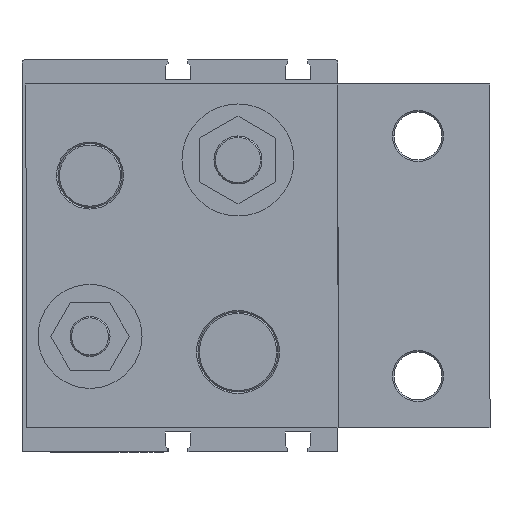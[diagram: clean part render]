
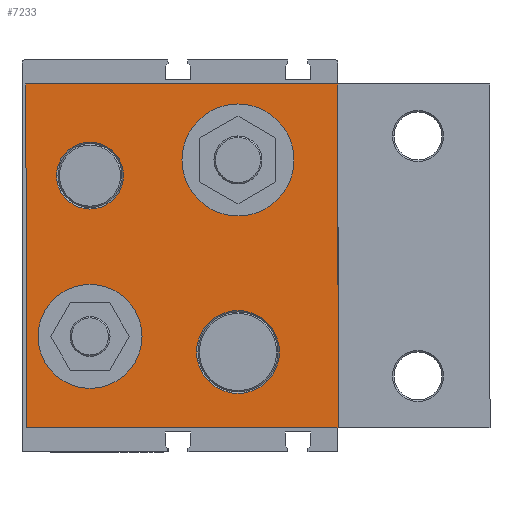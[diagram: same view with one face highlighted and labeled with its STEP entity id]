
A CAD part, left-side view. The second image highlights one B-rep face of the part: STEP entity #7233.
In plain terms, the highlighted planar face has unit normal (-1, 0, 0) as drawn and (1, 0, 0) by its records, which use the part's own axes.
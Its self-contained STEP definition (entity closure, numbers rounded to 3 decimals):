
#99 = DIRECTION ( 'NONE',  ( 1., 0., 0. ) ) ;
#170 = CIRCLE ( 'NONE', #7230, 14. ) ;
#231 = VERTEX_POINT ( 'NONE', #5303 ) ;
#281 = DIRECTION ( 'NONE',  ( 0., 0., 1. ) ) ;
#397 = EDGE_CURVE ( 'NONE', #926, #5437, #2987, .T. ) ;
#421 = DIRECTION ( 'NONE',  ( 1., 0., 0. ) ) ;
#538 = CARTESIAN_POINT ( 'NONE',  ( 28., -3., 20.1 ) ) ;
#581 = EDGE_CURVE ( 'NONE', #231, #2690, #5788, .T. ) ;
#752 = ORIENTED_EDGE ( 'NONE', *, *, #6431, .F. ) ;
#783 = ORIENTED_EDGE ( 'NONE', *, *, #1413, .F. ) ;
#926 = VERTEX_POINT ( 'NONE', #2493 ) ;
#956 = CARTESIAN_POINT ( 'NONE',  ( 28., -78., 43. ) ) ;
#1082 = CARTESIAN_POINT ( 'NONE',  ( 28., 0., -43. ) ) ;
#1277 = AXIS2_PLACEMENT_3D ( 'NONE', #1853, #5865, #2411 ) ;
#1334 = CIRCLE ( 'NONE', #3424, 14. ) ;
#1413 = EDGE_CURVE ( 'NONE', #2025, #3735, #5475, .T. ) ;
#1513 = LINE ( 'NONE', #956, #7475 ) ;
#1618 = CARTESIAN_POINT ( 'NONE',  ( 28., -63.375, 24. ) ) ;
#1639 = EDGE_LOOP ( 'NONE', ( #1858, #6681, #2314, #6913 ) ) ;
#1736 = CARTESIAN_POINT ( 'NONE',  ( 28., -39., -24. ) ) ;
#1785 = CIRCLE ( 'NONE', #1277, 13. ) ;
#1790 = DIRECTION ( 'NONE',  ( 1., 0., 0. ) ) ;
#1808 = FACE_BOUND ( 'NONE', #3704, .T. ) ;
#1853 = CARTESIAN_POINT ( 'NONE',  ( 28., -16., 20.1 ) ) ;
#1858 = ORIENTED_EDGE ( 'NONE', *, *, #5082, .T. ) ;
#1979 = PLANE ( 'NONE',  #3680 ) ;
#2025 = VERTEX_POINT ( 'NONE', #4497 ) ;
#2027 = CARTESIAN_POINT ( 'NONE',  ( 28., 0., 43. ) ) ;
#2067 = DIRECTION ( 'NONE',  ( 0., 0., 1. ) ) ;
#2103 = VERTEX_POINT ( 'NONE', #5161 ) ;
#2314 = ORIENTED_EDGE ( 'NONE', *, *, #4644, .T. ) ;
#2324 = DIRECTION ( 'NONE',  ( 1., 0., 0. ) ) ;
#2385 = CIRCLE ( 'NONE', #3913, 8.375 ) ;
#2411 = DIRECTION ( 'NONE',  ( 0., 1., 0. ) ) ;
#2443 = EDGE_CURVE ( 'NONE', #6370, #5987, #5422, .T. ) ;
#2491 = VERTEX_POINT ( 'NONE', #538 ) ;
#2493 = CARTESIAN_POINT ( 'NONE',  ( 28., -42.625, 24. ) ) ;
#2690 = VERTEX_POINT ( 'NONE', #4189 ) ;
#2930 = EDGE_LOOP ( 'NONE', ( #7366, #783 ) ) ;
#2987 = CIRCLE ( 'NONE', #6533, 10.375 ) ;
#3139 = FACE_BOUND ( 'NONE', #2930, .T. ) ;
#3150 = AXIS2_PLACEMENT_3D ( 'NONE', #3504, #99, #4080 ) ;
#3222 = CARTESIAN_POINT ( 'NONE',  ( 28., -53., -24. ) ) ;
#3295 = DIRECTION ( 'NONE',  ( 1., 0., 0. ) ) ;
#3311 = ORIENTED_EDGE ( 'NONE', *, *, #7442, .F. ) ;
#3314 = FACE_OUTER_BOUND ( 'NONE', #1639, .T. ) ;
#3335 = AXIS2_PLACEMENT_3D ( 'NONE', #5771, #2324, #6350 ) ;
#3342 = DIRECTION ( 'NONE',  ( 1., 0., 0. ) ) ;
#3424 = AXIS2_PLACEMENT_3D ( 'NONE', #3837, #421, #4402 ) ;
#3504 = CARTESIAN_POINT ( 'NONE',  ( 28., -53., 24. ) ) ;
#3680 = AXIS2_PLACEMENT_3D ( 'NONE', #7174, #3696, #281 ) ;
#3696 = DIRECTION ( 'NONE',  ( -1., 0., 0. ) ) ;
#3704 = EDGE_LOOP ( 'NONE', ( #4348, #752 ) ) ;
#3735 = VERTEX_POINT ( 'NONE', #5523 ) ;
#3808 = DIRECTION ( 'NONE',  ( 0., 1., 0. ) ) ;
#3837 = CARTESIAN_POINT ( 'NONE',  ( 28., -53., -24. ) ) ;
#3871 = CARTESIAN_POINT ( 'NONE',  ( 28., -78., -43. ) ) ;
#3913 = AXIS2_PLACEMENT_3D ( 'NONE', #6764, #3295, #7365 ) ;
#3947 = CARTESIAN_POINT ( 'NONE',  ( 28., 0., -43. ) ) ;
#3952 = VERTEX_POINT ( 'NONE', #1736 ) ;
#4041 = VERTEX_POINT ( 'NONE', #5382 ) ;
#4062 = VECTOR ( 'NONE', #4491, 1000. ) ;
#4080 = DIRECTION ( 'NONE',  ( 0., 1., 0. ) ) ;
#4189 = CARTESIAN_POINT ( 'NONE',  ( 28., -78., 43. ) ) ;
#4313 = CARTESIAN_POINT ( 'NONE',  ( 28., 0., 43. ) ) ;
#4348 = ORIENTED_EDGE ( 'NONE', *, *, #4381, .F. ) ;
#4353 = EDGE_LOOP ( 'NONE', ( #7166, #5043 ) ) ;
#4381 = EDGE_CURVE ( 'NONE', #2491, #4041, #1785, .T. ) ;
#4402 = DIRECTION ( 'NONE',  ( 0., 1., 0. ) ) ;
#4491 = DIRECTION ( 'NONE',  ( 0., -1., 0. ) ) ;
#4497 = CARTESIAN_POINT ( 'NONE',  ( 28., -24.375, -20.1 ) ) ;
#4529 = LINE ( 'NONE', #4313, #5899 ) ;
#4644 = EDGE_CURVE ( 'NONE', #2690, #5987, #1513, .T. ) ;
#4661 = FACE_BOUND ( 'NONE', #5742, .T. ) ;
#4662 = EDGE_CURVE ( 'NONE', #3952, #2103, #1334, .T. ) ;
#5043 = ORIENTED_EDGE ( 'NONE', *, *, #5103, .F. ) ;
#5070 = CIRCLE ( 'NONE', #3335, 13. ) ;
#5082 = EDGE_CURVE ( 'NONE', #6370, #231, #4529, .T. ) ;
#5103 = EDGE_CURVE ( 'NONE', #2103, #3952, #170, .T. ) ;
#5161 = CARTESIAN_POINT ( 'NONE',  ( 28., -67., -24. ) ) ;
#5218 = CARTESIAN_POINT ( 'NONE',  ( 28., -53., 24. ) ) ;
#5303 = CARTESIAN_POINT ( 'NONE',  ( 28., 0., 43. ) ) ;
#5382 = CARTESIAN_POINT ( 'NONE',  ( 28., -29., 20.1 ) ) ;
#5422 = LINE ( 'NONE', #1082, #4062 ) ;
#5426 = VECTOR ( 'NONE', #6040, 1000. ) ;
#5429 = ORIENTED_EDGE ( 'NONE', *, *, #397, .F. ) ;
#5437 = VERTEX_POINT ( 'NONE', #1618 ) ;
#5475 = CIRCLE ( 'NONE', #5953, 8.375 ) ;
#5523 = CARTESIAN_POINT ( 'NONE',  ( 28., -7.625, -20.1 ) ) ;
#5742 = EDGE_LOOP ( 'NONE', ( #5429, #3311 ) ) ;
#5771 = CARTESIAN_POINT ( 'NONE',  ( 28., -16., 20.1 ) ) ;
#5788 = LINE ( 'NONE', #2027, #5426 ) ;
#5801 = DIRECTION ( 'NONE',  ( 0., 1., 0. ) ) ;
#5865 = DIRECTION ( 'NONE',  ( 1., 0., 0. ) ) ;
#5899 = VECTOR ( 'NONE', #2067, 1000. ) ;
#5953 = AXIS2_PLACEMENT_3D ( 'NONE', #6814, #3342, #7409 ) ;
#5964 = EDGE_CURVE ( 'NONE', #3735, #2025, #2385, .T. ) ;
#5987 = VERTEX_POINT ( 'NONE', #3871 ) ;
#6040 = DIRECTION ( 'NONE',  ( 0., -1., 0. ) ) ;
#6111 = DIRECTION ( 'NONE',  ( 0., 0., -1. ) ) ;
#6208 = FACE_BOUND ( 'NONE', #4353, .T. ) ;
#6350 = DIRECTION ( 'NONE',  ( 0., 1., 0. ) ) ;
#6370 = VERTEX_POINT ( 'NONE', #3947 ) ;
#6431 = EDGE_CURVE ( 'NONE', #4041, #2491, #5070, .T. ) ;
#6533 = AXIS2_PLACEMENT_3D ( 'NONE', #5218, #1790, #5801 ) ;
#6681 = ORIENTED_EDGE ( 'NONE', *, *, #581, .T. ) ;
#6764 = CARTESIAN_POINT ( 'NONE',  ( 28., -16., -20.1 ) ) ;
#6768 = CIRCLE ( 'NONE', #3150, 10.375 ) ;
#6814 = CARTESIAN_POINT ( 'NONE',  ( 28., -16., -20.1 ) ) ;
#6913 = ORIENTED_EDGE ( 'NONE', *, *, #2443, .F. ) ;
#7166 = ORIENTED_EDGE ( 'NONE', *, *, #4662, .F. ) ;
#7174 = CARTESIAN_POINT ( 'NONE',  ( 28., -78., 43. ) ) ;
#7230 = AXIS2_PLACEMENT_3D ( 'NONE', #3222, #7299, #3808 ) ;
#7233 = ADVANCED_FACE ( 'NONE', ( #3314, #1808, #6208, #4661, #3139 ), #1979, .F. ) ;
#7299 = DIRECTION ( 'NONE',  ( 1., 0., 0. ) ) ;
#7365 = DIRECTION ( 'NONE',  ( 0., 1., 0. ) ) ;
#7366 = ORIENTED_EDGE ( 'NONE', *, *, #5964, .F. ) ;
#7409 = DIRECTION ( 'NONE',  ( 0., 1., 0. ) ) ;
#7442 = EDGE_CURVE ( 'NONE', #5437, #926, #6768, .T. ) ;
#7475 = VECTOR ( 'NONE', #6111, 1000. ) ;
